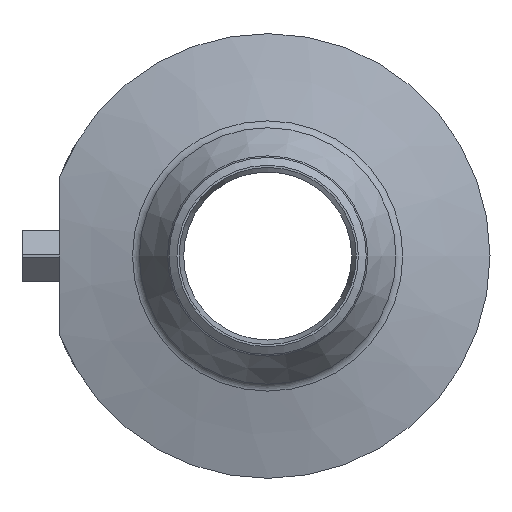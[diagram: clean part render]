
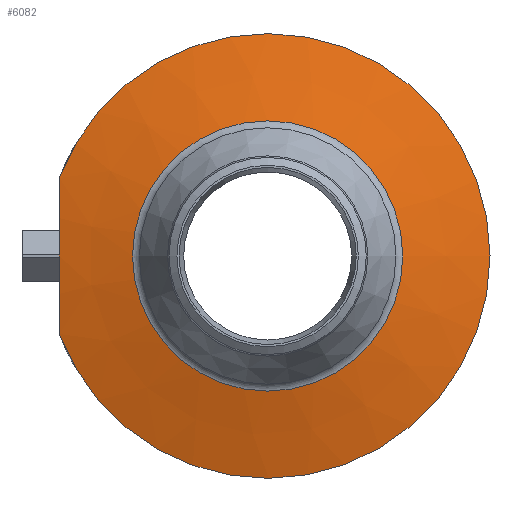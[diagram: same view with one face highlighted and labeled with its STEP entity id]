
A CAD part, left-side view. The second image highlights one B-rep face of the part: STEP entity #6082.
In plain terms, the highlighted conical face has half-angle 75 degrees and reference radius 125 mm.
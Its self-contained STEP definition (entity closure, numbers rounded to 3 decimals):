
#6016=CARTESIAN_POINT('',(-61.559,-95.701,0.));
#6017=VERTEX_POINT('',#6016);
#6018=CARTESIAN_POINT('',(-61.559,0.0,0.));
#6019=DIRECTION('',(-1.0,0.0,0.0));
#6020=DIRECTION('',(0.0,1.0,0.0));
#6021=AXIS2_PLACEMENT_3D('',#6018,#6019,#6020);
#6022=CIRCLE('',#6021,95.701);
#6023=EDGE_CURVE('',#6017,#6017,#6022,.T.);
#6048=CARTESIAN_POINT('',(-53.708,0.0,0.0));
#6049=DIRECTION('',(1.0,0.0,0.0));
#6050=DIRECTION('',(0.0,-1.0,0.0));
#6051=AXIS2_PLACEMENT_3D('',#6048,#6049,#6050);
#6052=CONICAL_SURFACE('',#6051,125.0,75.);
#6053=CARTESIAN_POINT('',(-45.,147.5,55.227));
#6054=VERTEX_POINT('',#6053);
#6055=CARTESIAN_POINT('',(-45.,147.5,-55.227));
#6056=VERTEX_POINT('',#6055);
#6057=CARTESIAN_POINT('',(-45.,147.5,55.227));
#6058=CARTESIAN_POINT('',(-50.189,147.5,0.0));
#6059=CARTESIAN_POINT('',(-45.,147.5,-55.227));
#6067=(BOUNDED_CURVE()B_SPLINE_CURVE(2,(#6057,#6058,#6059),.UNSPECIFIED.,.F.,.U.)B_SPLINE_CURVE_WITH_KNOTS((3,3),(0.0,11.058),.UNSPECIFIED.)CURVE()GEOMETRIC_REPRESENTATION_ITEM()RATIONAL_B_SPLINE_CURVE((1.0,1.068,1.0))REPRESENTATION_ITEM(''));
#6068=EDGE_CURVE('',#6054,#6056,#6067,.T.);
#6069=ORIENTED_EDGE('',*,*,#6068,.T.);
#6070=CARTESIAN_POINT('',(-45.,0.0,0.0));
#6071=DIRECTION('',(1.0,0.0,0.0));
#6072=DIRECTION('',(0.0,-1.0,0.0));
#6073=AXIS2_PLACEMENT_3D('',#6070,#6071,#6072);
#6074=CIRCLE('',#6073,157.5);
#6075=EDGE_CURVE('',#6054,#6056,#6074,.T.);
#6076=ORIENTED_EDGE('',*,*,#6075,.F.);
#6077=EDGE_LOOP('',(#6069,#6076));
#6078=FACE_OUTER_BOUND('',#6077,.T.);
#6079=ORIENTED_EDGE('',*,*,#6023,.F.);
#6080=EDGE_LOOP('',(#6079));
#6081=FACE_BOUND('',#6080,.T.);
#6082=ADVANCED_FACE('',(#6078,#6081),#6052,.T.);
